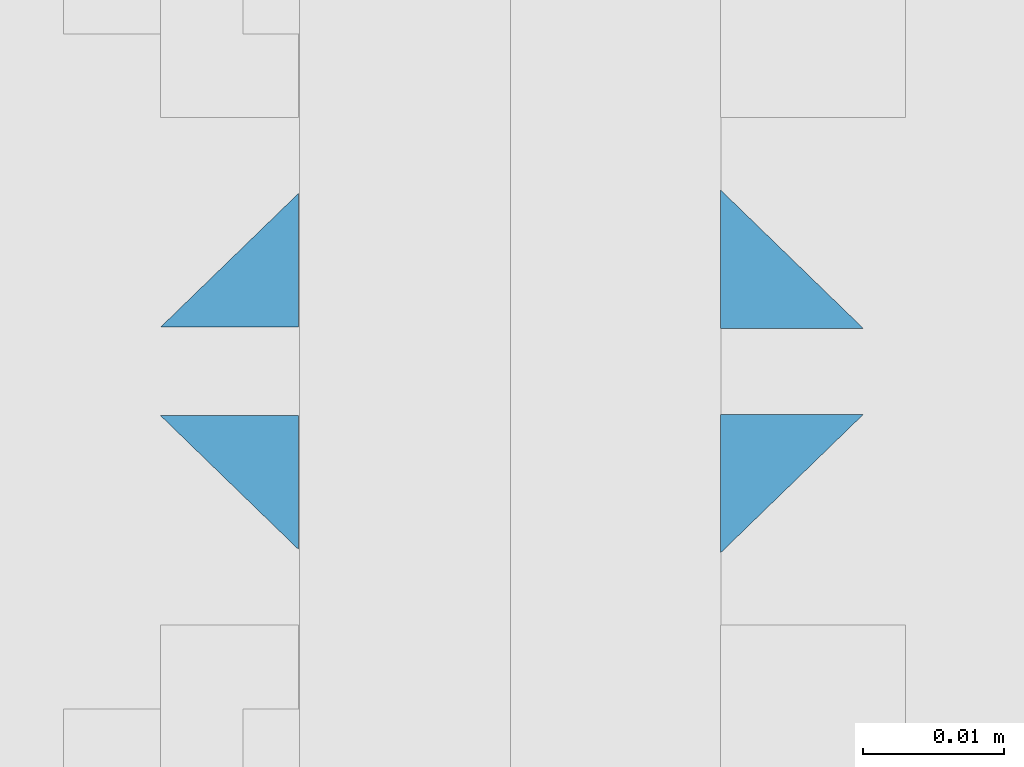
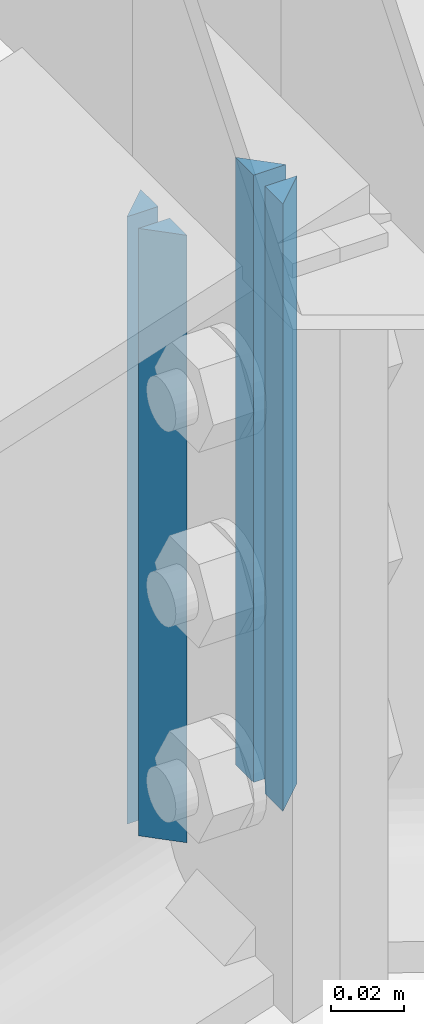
# One storey, part 17 of 53: 6 fasteners.
"""IFC4 building model written with IfcOpenShell, lengths in metres."""

from ifc_helpers import new_model, si_unit, frame, origin_with_axes, place, context, project, spatial, polyline, outline, extrude, type_object, element, save


model = new_model("IFC4")

# Units and contexts
model_context = context("Model", 3, precision=1e-05, world=origin_with_axes())
ifc_project = project(units=[si_unit("LENGTHUNIT", "METRE"), si_unit("AREAUNIT", "SQUARE_METRE"), si_unit("VOLUMEUNIT", "CUBIC_METRE"), si_unit("MASSUNIT", "GRAM", prefix="KILO"), si_unit("TIMEUNIT", "SECOND"), si_unit("PLANEANGLEUNIT", "RADIAN"), si_unit("SOLIDANGLEUNIT", "STERADIAN"), si_unit("THERMODYNAMICTEMPERATUREUNIT", "DEGREE_CELSIUS")], contexts=[model_context])

# Site, building, storey
placement_1 = place(None, origin_with_axes())
site = spatial("IfcSite", under=ifc_project, at=placement_1, Name="Italia", CompositionType="ELEMENT")
building = spatial("IfcBuilding", under=site, at=placement_1, Name="Capannone", CompositionType="ELEMENT")
storey_placement = place(None, frame((0.0, 0.0, 5.550000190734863), z_axis=(0.0, 0.0, 1.0), x_axis=(1.0, 0.0, 0.0)))
storey = spatial("IfcBuildingStorey", under=building, at=storey_placement, Name="Storey 1", CompositionType="ELEMENT", Elevation=5.550000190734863)

# Fasteners
fastener_type_1 = type_object("IfcFastenerType", Name="Collegamenti -1142_-1128 -1143_-1130 -1144_-1132 -1145_-1134 -1146_-1136 -1147_-1138", PredefinedType="WELD")
placement_2 = place(placement_1, origin_with_axes())
fastener_1_placement = place(placement_2, origin_with_axes())
element("IfcFastener", 1, at=fastener_1_placement, inside=storey, type_object=fastener_type_1, Name="Collegamenti -1142_-1128 -1143_-1130 -1144_-1132 -1145_-1134 -1146_-1136 -1147_-1138", context=model_context, shape_type="SweptSolid", body=[
    extrude(outline(polyline([(0.0, 0.0), (0.00986862, 0.0101738), (0.00986862, 0.0), (0.0, 0.0)])), frame((7.01495, 8.98708, 8.07243), z_axis=(0.0, 0.0, -1.0), x_axis=(0.0, 1.0, 0.0)), (0.0, 0.0, 1.0), 0.202095),
])
fastener_type_2 = type_object("IfcFastenerType", Name="Collegamenti -1142_-1128 -1143_-1130 -1144_-1132 -1145_-1134 -1146_-1136 -1147_-1138", PredefinedType="WELD")
fastener_2_placement = place(placement_2, origin_with_axes())
element("IfcFastener", 2, at=fastener_2_placement, inside=storey, type_object=fastener_type_2, Name="Collegamenti -1142_-1128 -1143_-1130 -1144_-1132 -1145_-1134 -1146_-1136 -1147_-1138", context=model_context, shape_type="SweptSolid", body=[
    extrude(outline(polyline([(0.0, 0.0), (-0.00986862, -0.0101738), (-0.00986862, 0.0), (0.0, 0.0)])), frame((7.01495, 9.01292, 7.87034), z_axis=(0.0, 0.0, 1.0), x_axis=(0.0, 1.0, 0.0)), (0.0, 0.0, 1.0), 0.202095),
])
fastener_type_3 = type_object("IfcFastenerType", Name="Collegamenti -1142_-1128 -1143_-1130 -1144_-1132 -1145_-1134 -1146_-1136 -1147_-1138", PredefinedType="WELD")
fastener_3_placement = place(placement_2, origin_with_axes())
element("IfcFastener", 3, at=fastener_3_placement, inside=storey, type_object=fastener_type_3, Name="Collegamenti -1142_-1128 -1143_-1130 -1144_-1132 -1145_-1134 -1146_-1136 -1147_-1138", context=model_context, shape_type="SweptSolid", body=[
    extrude(outline(polyline([(0.0, 0.0), (0.00986862, 0.0101738), (0.00986862, 0.0), (0.0, 0.0)])), frame((7.01495, 8.98708, 8.07243), z_axis=(0.0, 0.0, -1.0), x_axis=(0.0, 1.0, 0.0)), (0.0, 0.0, 1.0), 0.202095),
])
fastener_type_4 = type_object("IfcFastenerType", Name="Collegamenti -1142_-1128 -1143_-1130 -1144_-1132 -1145_-1134 -1146_-1136 -1147_-1138", PredefinedType="WELD")
fastener_4_placement = place(placement_2, origin_with_axes())
element("IfcFastener", 4, at=fastener_4_placement, inside=storey, type_object=fastener_type_4, Name="Collegamenti -1142_-1128 -1143_-1130 -1144_-1132 -1145_-1134 -1146_-1136 -1147_-1138", context=model_context, shape_type="SweptSolid", body=[
    extrude(outline(polyline([(0.0, 0.0), (-0.00986862, -0.0101738), (-0.00986862, 0.0), (0.0, 0.0)])), frame((7.01495, 9.01292, 7.87034), z_axis=(0.0, 0.0, 1.0), x_axis=(0.0, 1.0, 0.0)), (0.0, 0.0, 1.0), 0.202095),
])
fastener_type_5 = type_object("IfcFastenerType", Name="Collegamenti -1142_-1128 -1143_-1130 -1144_-1132 -1145_-1134 -1146_-1136 -1147_-1138", PredefinedType="WELD")
fastener_5_placement = place(placement_2, origin_with_axes())
element("IfcFastener", 5, at=fastener_5_placement, inside=storey, type_object=fastener_type_5, Name="Collegamenti -1142_-1128 -1143_-1130 -1144_-1132 -1145_-1134 -1146_-1136 -1147_-1138", context=model_context, shape_type="SweptSolid", body=[
    extrude(outline(polyline([(0.0, 0.0), (-0.00953197, 0.00982714), (-0.00953197, 0.0), (0.0, 0.0)])), frame((6.98495, 9.01268, 7.87034), z_axis=(0.0, 0.0, 1.0), x_axis=(0.0, 1.0, 0.0)), (0.0, 0.0, 1.0), 0.202095),
])
fastener_type_6 = type_object("IfcFastenerType", Name="Collegamenti -1142_-1128 -1143_-1130 -1144_-1132 -1145_-1134 -1146_-1136 -1147_-1138", PredefinedType="WELD")
fastener_6_placement = place(placement_2, origin_with_axes())
element("IfcFastener", 6, at=fastener_6_placement, inside=storey, type_object=fastener_type_6, Name="Collegamenti -1142_-1128 -1143_-1130 -1144_-1132 -1145_-1134 -1146_-1136 -1147_-1138", context=model_context, shape_type="SweptSolid", body=[
    extrude(outline(polyline([(0.0, 0.0), (0.00953197, -0.00982714), (0.00953197, 0.0), (0.0, 0.0)])), frame((6.98495, 8.98732, 8.07243), z_axis=(0.0, 0.0, -1.0), x_axis=(0.0, 1.0, 0.0)), (0.0, 0.0, 1.0), 0.202095),
])

save(model, "model.ifc")
